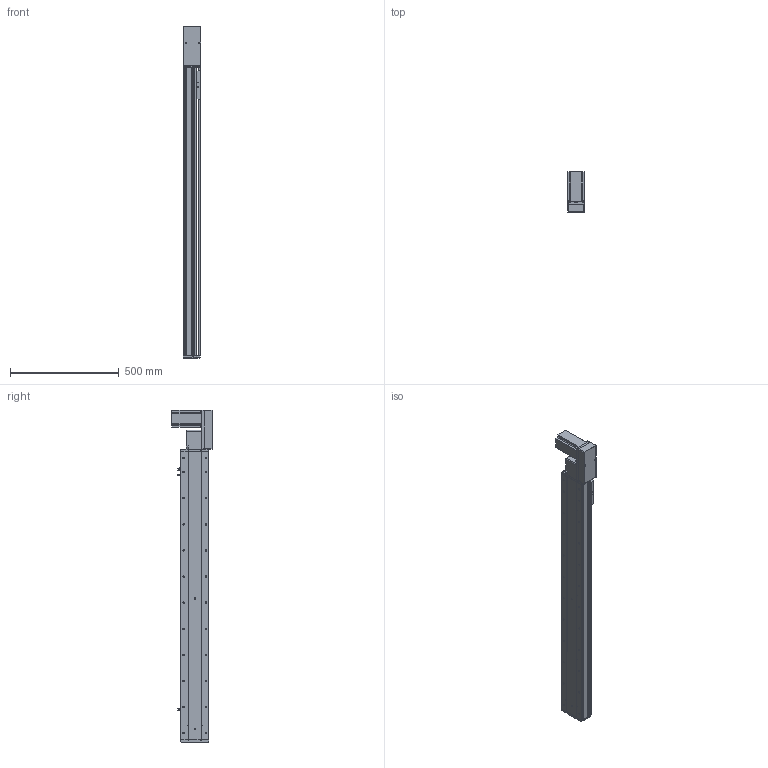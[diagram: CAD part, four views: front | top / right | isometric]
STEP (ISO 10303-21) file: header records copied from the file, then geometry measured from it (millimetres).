
FILE_DESCRIPTION (( 'STEP AP214' ), '1' );
FILE_NAME ('KSD130B-S1100-MLB-CM.STEP', '2019-09-19T07:35:51', ( '微软用户' ), ( '微软中国' ), 'SwSTEP 2.0', 'SolidWorks 2014', '' );
FILE_SCHEMA (( 'AUTOMOTIVE_DESIGN' ));
Length unit declared in the file: millimetre
Products named in the file (12): KSD130B-S1100-MLB-CM; 台达ECMA－C20807AS伺服电机; 130宽模组保护罩上下左右折-同步带; 130宽模组马达安装板连板左右折同步带; 覜茼え100遵圉猾敕; U倰嫖萇EEㄜSX672; 130宽盖板半封闭同步带-1100行程; 130宽马达安装板同步带左-改; 130宽马达安装板同步带半封闭; 130宽同步带安装座半封闭; 130宽端盖同步带半封闭; 130宽底板半封闭同步带-1100行程
Assembly tree (13 placements, depth 2):
  KSD130B-S1100-MLB-CM
    130宽底板半封闭同步带-1100行程
    130宽端盖同步带半封闭
    130宽同步带安装座半封闭
    130宽马达安装板同步带半封闭
    130宽马达安装板同步带左-改
    130宽盖板半封闭同步带-1100行程
    U倰嫖萇EEㄜSX672  x3
    覜茼え100遵圉猾敕
    130宽模组马达安装板连板左右折同步带
    130宽模组保护罩上下左右折-同步带
    台达ECMA－C20807AS伺服电机
Bounding box: 82.5 x 184.8 x 1527 mm (x, y, z)
Volume: 5257339.6 mm3; surface area: 1444765.2 mm2
Topology: 14 solids, 14 shells, 1569 faces, 4501 edges, 2871 vertices
Faces by surface type: cylinder 756, plane 630, cone 183
Entity records: 52047 total; most frequent: CARTESIAN_POINT 9764, DIRECTION 7899, ORIENTED_EDGE 7622, EDGE_CURVE 3811, AXIS2_PLACEMENT_3D 2886, VERTEX_POINT 2495, VECTOR 2127, LINE 2127
